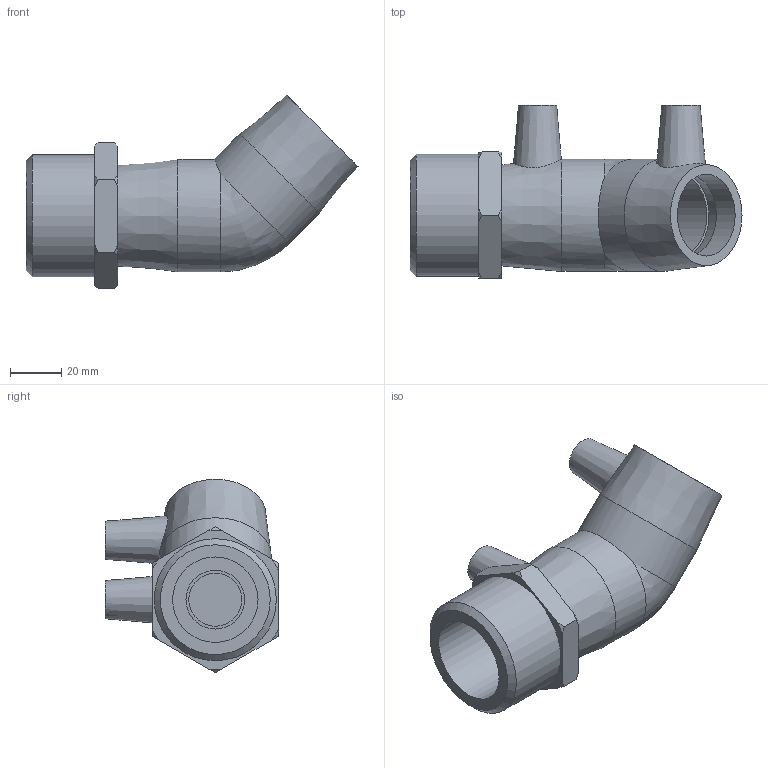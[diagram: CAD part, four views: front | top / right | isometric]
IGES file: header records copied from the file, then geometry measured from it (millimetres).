
Global section: file name: 492604032015.ipt; native system: Autodesk Inventor 2015; preprocessor: unknown; author: KIM; date: 20200202.122416; units: millimetre
Bounding box: 130 x 67.77 x 75.74 mm (x, y, z)
Volume: 131051.2 mm3; surface area: 38299.9 mm2
Topology: 1 solids, 2 shells, 59 faces, 142 edges, 97 vertices
Faces by surface type: plane 24, cone 17, revolution 10, cylinder 7, bspline 1
Full cylindrical faces by diameter (mm): 4 x2, 32 x2, 44 x2, 47.803 x1
